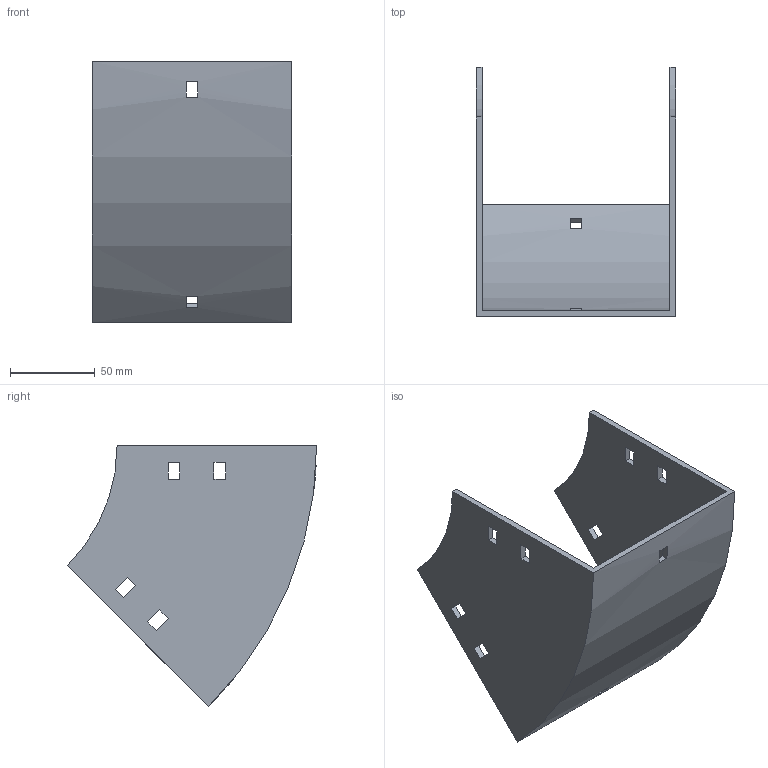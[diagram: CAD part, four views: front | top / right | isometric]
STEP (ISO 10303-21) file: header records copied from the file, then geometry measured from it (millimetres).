
FILE_DESCRIPTION (( 'STEP AP214' ), '1' );
FILE_NAME ('31B1J117.step', '2025-02-21T09:45:58', ( '' ), ( '' ), 'SwSTEP 2.0', 'SolidWorks 2023', '' );
FILE_SCHEMA (( 'AUTOMOTIVE_DESIGN' ));
Length unit declared in the file: millimetre
Products named in the file (1): 31B1J117
Bounding box: 117.5 x 146.79 x 153.8 mm (x, y, z)
Volume: 165714.8 mm3; surface area: 98841.8 mm2
Topology: 1 solids, 1 shells, 50 faces, 144 edges, 96 vertices
Faces by surface type: plane 46, cylinder 4
Entity records: 1687 total; most frequent: CARTESIAN_POINT 291, ORIENTED_EDGE 288, DIRECTION 262, EDGE_CURVE 144, VECTOR 128, LINE 128, VERTEX_POINT 96, EDGE_LOOP 70
